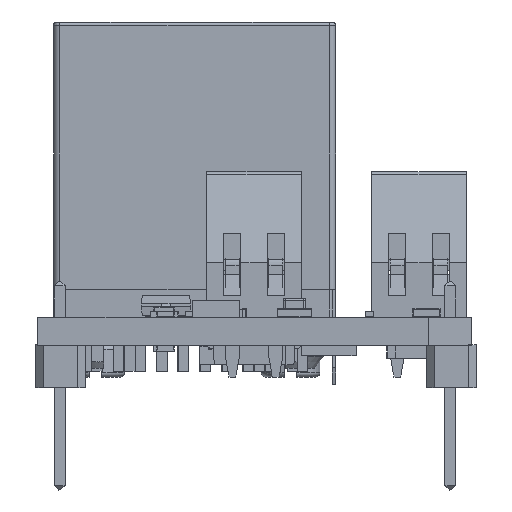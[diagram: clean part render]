
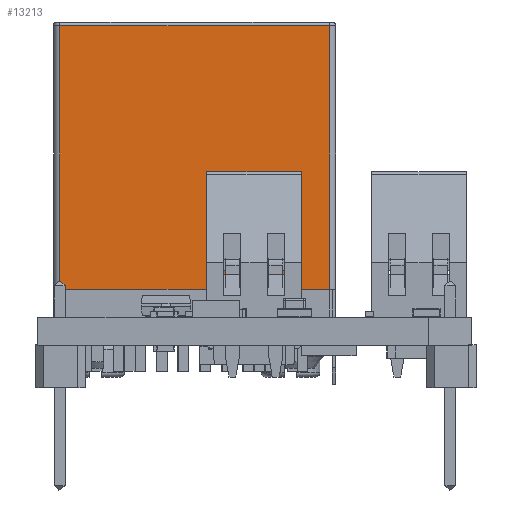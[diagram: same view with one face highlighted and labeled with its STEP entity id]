
A CAD part, front view. The second image highlights one B-rep face of the part: STEP entity #13213.
In plain terms, the highlighted planar face has unit normal (0, -1, 0).
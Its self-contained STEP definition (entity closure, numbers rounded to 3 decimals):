
#13175 = EDGE_CURVE('',#13176,#13178,#13180,.T.);
#13176 = VERTEX_POINT('',#13177);
#13177 = CARTESIAN_POINT('',(-7.896,-8.635,17.062));
#13178 = VERTEX_POINT('',#13179);
#13179 = CARTESIAN_POINT('',(-7.896,-8.635,1.629));
#13180 = LINE('',#13181,#13182);
#13181 = CARTESIAN_POINT('',(-7.896,-8.635,17.27));
#13182 = VECTOR('',#13183,1.);
#13183 = DIRECTION('',(0.,0.,-1.));
#13213 = ADVANCED_FACE('',(#13214),#13239,.F.);
#13214 = FACE_BOUND('',#13215,.T.);
#13215 = EDGE_LOOP('',(#13216,#13226,#13232,#13233));
#13216 = ORIENTED_EDGE('',*,*,#13217,.F.);
#13217 = EDGE_CURVE('',#13218,#13220,#13222,.T.);
#13218 = VERTEX_POINT('',#13219);
#13219 = CARTESIAN_POINT('',(7.896,-8.635,17.062));
#13220 = VERTEX_POINT('',#13221);
#13221 = CARTESIAN_POINT('',(7.896,-8.635,1.629));
#13222 = LINE('',#13223,#13224);
#13223 = CARTESIAN_POINT('',(7.896,-8.635,17.27));
#13224 = VECTOR('',#13225,1.);
#13225 = DIRECTION('',(0.,0.,-1.));
#13226 = ORIENTED_EDGE('',*,*,#13227,.F.);
#13227 = EDGE_CURVE('',#13176,#13218,#13228,.T.);
#13228 = LINE('',#13229,#13230);
#13229 = CARTESIAN_POINT('',(-7.896,-8.635,17.062));
#13230 = VECTOR('',#13231,1.);
#13231 = DIRECTION('',(1.,0.,0.));
#13232 = ORIENTED_EDGE('',*,*,#13175,.T.);
#13233 = ORIENTED_EDGE('',*,*,#13234,.T.);
#13234 = EDGE_CURVE('',#13178,#13220,#13235,.T.);
#13235 = LINE('',#13236,#13237);
#13236 = CARTESIAN_POINT('',(-7.896,-8.635,1.629));
#13237 = VECTOR('',#13238,1.);
#13238 = DIRECTION('',(1.,0.,0.));
#13239 = PLANE('',#13240);
#13240 = AXIS2_PLACEMENT_3D('',#13241,#13242,#13243);
#13241 = CARTESIAN_POINT('',(-8.255,-8.635,17.27));
#13242 = DIRECTION('',(0.,1.,0.));
#13243 = DIRECTION('',(0.,0.,1.));
